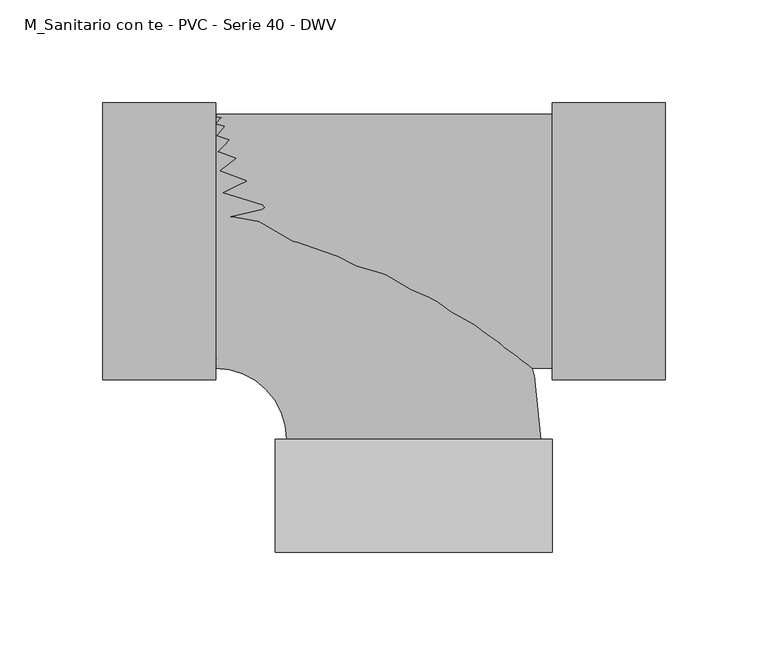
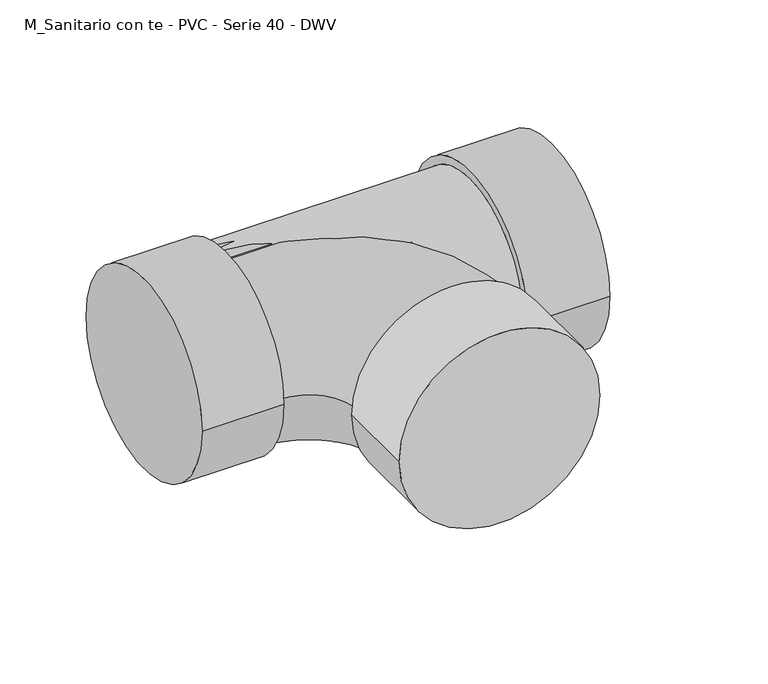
"""IFC4 building model written with IfcOpenShell, lengths in millimetres: pipe fitting geometry, M_Sanitario con te - PVC - Serie 40 - DWV : Estándar."""

from ifc_helpers import new_model, si_unit, point, frame, origin, place, context, project, spatial, circle_curve, ellipse_curve, trimmed, source, transform, mapped, element, save
from ifc_brep_helpers import plane_surface, cylinder_surface, revolved_surface, advanced_brep


def m_sanitario_con_te_pvc_serie_40_dwv_f73dd6a0(model_context):
    return source(origin(), model_context, "Body", "AdvancedBrep", [
        advanced_brep(
        [(-96.2140625, -61.7640625, 0.0), (-96.2140625, 61.7640625, 0.0), (-61.7255873, -96.2387506, 0.0), (61.8025278, -96.1893591, 0.0), (67.4475654, -151.1871063, 0.0), (-67.3266425, -151.2409945, 0.0), (67.4255742, -96.1871107, 0.0), (-67.3486338, -96.2409989, 0.0)],
        [
            (0, 1, circle_curve(frame((-96.2140625, 0.0, 0.0), z_axis=(-1.0, 0.0, 0.0), x_axis=(0.0, 1.0, 0.0)), 61.7640625)),
            (1, 0, circle_curve(frame((-96.2140625, 0.0, 0.0), z_axis=(-1.0, 0.0, 0.0), x_axis=(0.0, 1.0, 0.0)), 61.7640625)),
            (0, 2, circle_curve(frame((-96.2140625, -96.2525404, 0.0), z_axis=(0.0, 0.0, -1.0), x_axis=(0.0, 1.0, 0.0)), 34.4884779)),
            (2, 3, circle_curve(frame((0.0384702, -96.2140548, 0.0), z_axis=(-0.0003998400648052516, 0.9999999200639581, 0.0), x_axis=(0.9999999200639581, 0.0003998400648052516, 0.0)), 61.7640625)),
            (3, 1, circle_curve(frame((-96.2140625, -96.2525404, 0.0), z_axis=(0.0, 0.0, 1.0), x_axis=(0.0, 1.0, 0.0)), 158.0166029)),
            (3, 2, circle_curve(frame((0.0384702, -96.2140548, 0.0), z_axis=(-0.00039984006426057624, 0.9999999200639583, 0.0), x_axis=(0.9999999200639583, 0.00039984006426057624, 0.0)), 61.7640625)),
            (4, 5, circle_curve(frame((0.0604614, -151.2140504, 0.0), z_axis=(0.0003998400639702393, -0.9999999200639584, 0.0), x_axis=(-0.9999999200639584, -0.0003998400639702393, 0.0)), 67.3871094)),
            (5, 4, circle_curve(frame((0.0604614, -151.2140504, 0.0), z_axis=(0.0003998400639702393, -0.9999999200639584, 0.0), x_axis=(-0.9999999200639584, -0.0003998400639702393, 0.0)), 67.3871094)),
            (6, 7, circle_curve(frame((0.0384702, -96.2140548, 0.0), z_axis=(-0.0003998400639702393, 0.9999999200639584, 0.0), x_axis=(-0.9999999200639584, -0.0003998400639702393, 0.0)), 67.3871094)),
            (7, 6, circle_curve(frame((0.0384702, -96.2140548, 0.0), z_axis=(-0.0003998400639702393, 0.9999999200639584, 0.0), x_axis=(-0.9999999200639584, -0.0003998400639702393, 0.0)), 67.3871094)),
            (4, 6),
            (7, 5),
        ],
        [
            plane_surface(frame((-96.2140625, 0.0, 0.0), z_axis=(-1.0, 0.0, 0.0), x_axis=(0.0, 0.0, 1.0))),
            revolved_surface(trimmed(ellipse_curve(frame((-96.2140625, 0.0, 0.0), z_axis=(-1.0, 0.0, 0.0), x_axis=(0.0, 1.0, 0.0)), 61.7640625, 61.7640625), [point((-96.2140625, -61.7640625, 0.0))], [point((-96.2140625, 61.7640625, 0.0))], True, "CARTESIAN"), (-96.2140625, -96.2525404, 0.0), (0.0, 0.0, -1.0)),
            revolved_surface(trimmed(ellipse_curve(frame((-96.2140625, 0.0, 0.0), z_axis=(-1.0, 0.0, 0.0), x_axis=(0.0, 1.0, 0.0)), 61.7640625, 61.7640625), [point((-96.2140625, 61.7640625, 0.0))], [point((-96.2140625, -61.7640625, 0.0))], True, "CARTESIAN"), (-96.2140625, -96.2525404, 0.0), (0.0, 0.0, -1.0)),
            plane_surface(frame((0.0604614, -151.2140504, 0.0), z_axis=(0.00039984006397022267, -0.9999999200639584, 0.0), x_axis=(0.0, 0.0, 1.0))),
            plane_surface(frame((0.0384702, -96.2140548, 0.0), z_axis=(-0.0003998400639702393, 0.9999999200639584, 0.0), x_axis=(0.0, 0.0, 1.0))),
            cylinder_surface(frame((0.0604614, -151.2140504, 0.0), z_axis=(0.0003998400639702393, -0.9999999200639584, 0.0), x_axis=(-0.9999999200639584, -0.0003998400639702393, 0.0)), 67.3871094),
        ],
        [
            (0, [[1, 2]]),
            (1, [[-1, 3, 4, 5]]),
            (2, [[-2, -5, 6, -3]]),
            (3, [[7, 8]]),
            (4, [[9, 10], [-4, -6]]),
            (5, [[-7, 11, -10, 12]]),
            (5, [[-8, -12, -9, -11]]),
        ],
    ),
        advanced_brep(
        [(-96.2140625, -61.7640625, 0.0), (67.4255742, -61.7640625, 0.0), (67.4255742, 61.7640625, 0.0), (-96.2140625, 61.7640625, 0.0), (67.4255742, -67.3871094, 0.0), (67.4255742, 67.3871094, 0.0), (122.4255742, -67.3871094, 0.0), (122.4255742, 67.3871094, 0.0), (-151.2140625, -67.3871094, 0.0), (-151.2140625, 67.3871094, 0.0), (-96.2140625, -67.3871094, 0.0), (-96.2140625, 67.3871094, 0.0)],
        [
            (0, 1),
            (1, 2, circle_curve(frame((67.4255742, 0.0, 0.0), z_axis=(-1.0, 0.0, 0.0), x_axis=(0.0, 1.0, 0.0)), 61.7640625)),
            (2, 3),
            (3, 0, circle_curve(frame((-96.2140625, 0.0, 0.0), z_axis=(1.0, 0.0, 0.0), x_axis=(0.0, 1.0, 0.0)), 61.7640625)),
            (0, 3, circle_curve(frame((-96.2140625, 0.0, 0.0), z_axis=(1.0, 0.0, 0.0), x_axis=(0.0, 1.0, 0.0)), 61.7640625)),
            (2, 1, circle_curve(frame((67.4255742, 0.0, 0.0), z_axis=(-1.0, 0.0, 0.0), x_axis=(0.0, 1.0, 0.0)), 61.7640625)),
            (4, 5, circle_curve(frame((67.4255742, 0.0, 0.0), z_axis=(-1.0, 0.0, 0.0), x_axis=(0.0, 1.0, 0.0)), 67.3871094)),
            (5, 4, circle_curve(frame((67.4255742, 0.0, 0.0), z_axis=(-1.0, 0.0, 0.0), x_axis=(0.0, 1.0, 0.0)), 67.3871094)),
            (6, 7, circle_curve(frame((122.4255742, 0.0, 0.0), z_axis=(1.0, 0.0, 0.0), x_axis=(0.0, 1.0, 0.0)), 67.3871094)),
            (7, 6, circle_curve(frame((122.4255742, 0.0, 0.0), z_axis=(1.0, 0.0, 0.0), x_axis=(0.0, 1.0, 0.0)), 67.3871094)),
            (4, 6),
            (7, 5),
            (8, 9, circle_curve(frame((-151.2140625, 0.0, 0.0), z_axis=(-1.0, 0.0, 0.0), x_axis=(0.0, 1.0, 0.0)), 67.3871094)),
            (9, 8, circle_curve(frame((-151.2140625, 0.0, 0.0), z_axis=(-1.0, 0.0, 0.0), x_axis=(0.0, 1.0, 0.0)), 67.3871094)),
            (10, 11, circle_curve(frame((-96.2140625, 0.0, 0.0), z_axis=(1.0, 0.0, 0.0), x_axis=(0.0, 1.0, 0.0)), 67.3871094)),
            (11, 10, circle_curve(frame((-96.2140625, 0.0, 0.0), z_axis=(1.0, 0.0, 0.0), x_axis=(0.0, 1.0, 0.0)), 67.3871094)),
            (8, 10),
            (11, 9),
        ],
        [
            cylinder_surface(frame((-96.2140625, 0.0, 0.0), z_axis=(-1.0, 0.0, 0.0), x_axis=(0.0, 1.0, 0.0)), 61.7640625),
            plane_surface(frame((67.4255742, 0.0, 0.0), z_axis=(-1.0, 0.0, 0.0), x_axis=(0.0, 0.0, 1.0))),
            plane_surface(frame((122.4255742, 0.0, 0.0), z_axis=(1.0, 0.0, 0.0), x_axis=(0.0, 0.0, 1.0))),
            cylinder_surface(frame((67.4255742, 0.0, 0.0), z_axis=(-1.0, 0.0, 0.0), x_axis=(0.0, 1.0, 0.0)), 67.3871094),
            plane_surface(frame((-151.2140625, 0.0, 0.0), z_axis=(-1.0, 0.0, 0.0), x_axis=(0.0, 0.0, 1.0))),
            plane_surface(frame((-96.2140625, 0.0, 0.0), z_axis=(1.0, 0.0, 0.0), x_axis=(0.0, 0.0, 1.0))),
            cylinder_surface(frame((-151.2140625, 0.0, 0.0), z_axis=(-1.0, 0.0, 0.0), x_axis=(0.0, 1.0, 0.0)), 67.3871094),
        ],
        [
            (0, [[1, 2, 3, 4]]),
            (0, [[-1, 5, -3, 6]]),
            (1, [[7, 8], [-2, -6]]),
            (2, [[9, 10]]),
            (3, [[-7, 11, -10, 12]]),
            (3, [[-8, -12, -9, -11]]),
            (4, [[13, 14]]),
            (5, [[15, 16], [-4, -5]]),
            (6, [[-13, 17, -16, 18]]),
            (6, [[-14, -18, -15, -17]]),
        ],
    ),
    ])


if __name__ == "__main__":
    model = new_model("IFC4")
    model_context = context("Model", 3, world=origin())
    ifc_project = project(units=[si_unit("LENGTHUNIT", "METRE", prefix="MILLI")], contexts=[model_context])
    site = spatial("IfcSite", under=ifc_project)
    building = spatial("IfcBuilding", under=site)
    placement = place(None, origin())
    m_sanitario_con_te_pvc_serie_40_dwv_shape = m_sanitario_con_te_pvc_serie_40_dwv_f73dd6a0(model_context)
    element("IfcPipeFitting", 1, ObjectType="M_Sanitario con te - PVC - Serie 40 - DWV : Estándar", at=placement, inside=building, context=model_context, shape_type="MappedRepresentation", body=[
        mapped(m_sanitario_con_te_pvc_serie_40_dwv_shape, transform((0.0, 0.0, 0.0), x_axis=(1.0, 0.0, 0.0), y_axis=(0.0, 1.0, 0.0), z_axis=(0.0, 0.0, 1.0))),
    ])
    save(model, "model.ifc")
